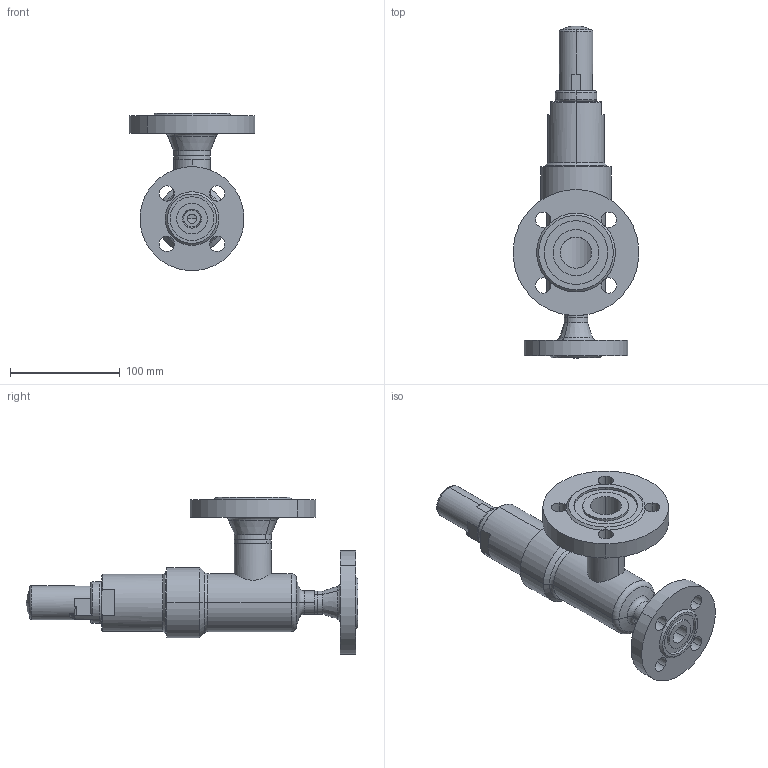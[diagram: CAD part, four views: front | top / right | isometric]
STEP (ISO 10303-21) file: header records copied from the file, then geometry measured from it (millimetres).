
FILE_DESCRIPTION (( 'STEP AP214' ), '1' );
FILE_NAME ('SVA 45520D10-DN15(25)_DIN.STEP', '2010-06-07T11:03:26', ( 'Eckhard Grams' ), ( 'AWP Kälte Klima Armaturen GmbH' ), 'SwSTEP 2.0', 'SolidWorks 2002296', '' );
FILE_SCHEMA (( 'AUTOMOTIVE_DESIGN' ));
Length unit declared in the file: millimetre
Products named in the file (11): SVA 45520D10-DN15(25)_DIN; Gehkpl 45720E10-5030001; Geh 45700E10-5034004_DN15; Flansch-DIN2635-Nut_PS40_DIN-Flansch-DN015_PS40-Nut; Rohrstutzen-A 45700E10-5036004_DN15(25)_Standard; Flansch-DIN2635-Nut_PS40_DIN-Flansch-DN025_PS40-Nut; bead Geh,kpl 45720E10-2_Standard; bead Geh,kpl 45720E10-1_Standard; Flachdichtg-Alu-DN15; Haube 45700E10-5260003_DN15; Kappe SVA-SVU-ORV_DN10-40 (M27x1,5)_Standard
Assembly tree (10 placements, depth 3):
  SVA 45520D10-DN15(25)_DIN
    Kappe SVA-SVU-ORV_DN10-40 (M27x1,5)_Standard
    Gehkpl 45720E10-5030001
      Flansch-DIN2635-Nut_PS40_DIN-Flansch-DN015_PS40-Nut
      Geh 45700E10-5034004_DN15
      Flansch-DIN2635-Nut_PS40_DIN-Flansch-DN025_PS40-Nut
      Rohrstutzen-A 45700E10-5036004_DN15(25)_Standard
      bead Geh,kpl 45720E10-1_Standard
      bead Geh,kpl 45720E10-2_Standard
    Flachdichtg-Alu-DN15
    Haube 45700E10-5260003_DN15
Bounding box: 114.56 x 303 x 143.32 mm (x, y, z)
Volume: 511489.1 mm3; surface area: 151679.7 mm2
Topology: 9 solids, 9 shells, 261 faces, 618 edges, 387 vertices
Faces by surface type: cylinder 125, plane 49, cone 47, torus 26, bspline 10, sphere 4
Entity records: 13930 total; most frequent: CARTESIAN_POINT 7081, DIRECTION 1332, ORIENTED_EDGE 1236, EDGE_CURVE 618, AXIS2_PLACEMENT_3D 563, VERTEX_POINT 387, EDGE_LOOP 309, CIRCLE 298
